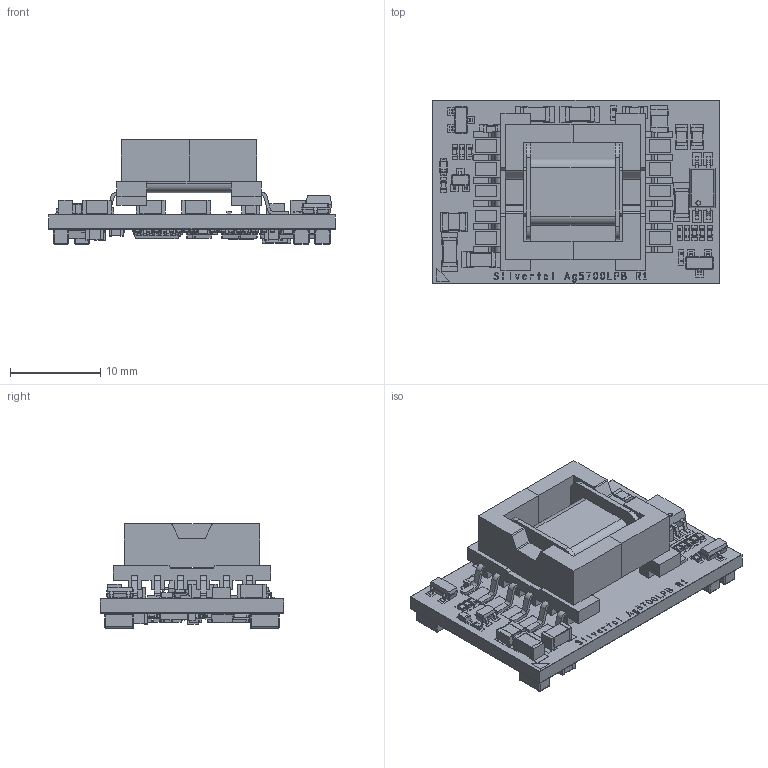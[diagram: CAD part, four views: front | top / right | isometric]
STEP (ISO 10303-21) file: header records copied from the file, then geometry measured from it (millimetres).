
FILE_DESCRIPTION(('FreeCAD Model'),'2;1');
FILE_NAME('Open CASCADE Shape Model','2025-10-20T16:29:52',(''),(''), 'Open CASCADE STEP processor 7.8','FreeCAD','Unknown');
FILE_SCHEMA(('AUTOMOTIVE_DESIGN { 1 0 10303 214 1 1 1 1 }'));
Products named in the file (1): Ag5700_detailed
Bounding box: 31.75 x 20.32 x 11.61 mm (x, y, z)
Surface area: 8625.2 mm2 (no closed solid volume)
Topology: 0 solids, 7332 shells, 7332 faces, 39236 edges, 39228 vertices
Faces by surface type: extrusion 4905, revolution 1769, bspline 658
Entity records: 475756 total; most frequent: CARTESIAN_POINT 91440, DIRECTION 58098, VECTOR 42311, ORIENTED_EDGE 39228, EDGE_CURVE 39228, VERTEX_POINT 39228, LINE 37406, FACE_BOUND 8118
